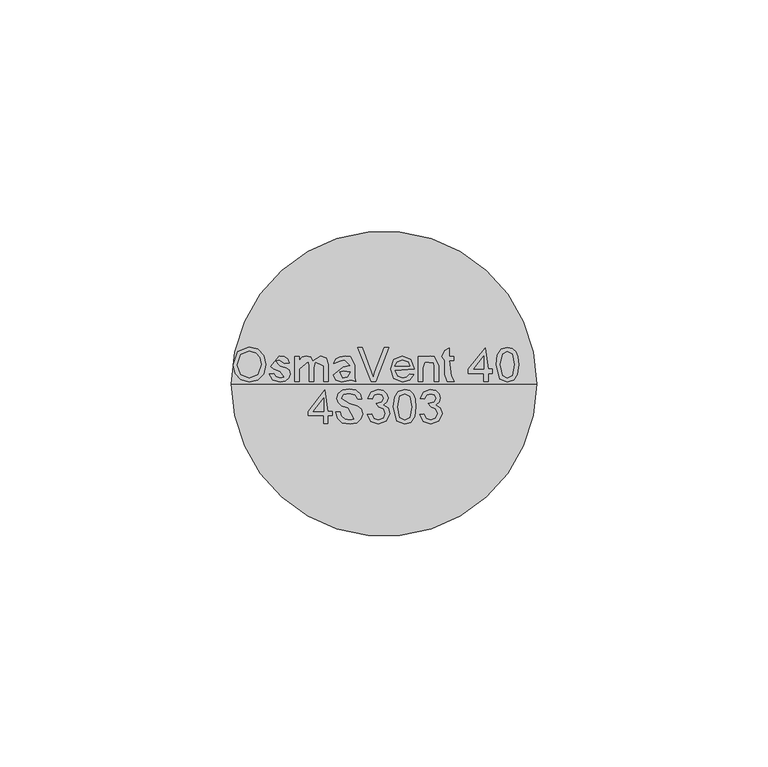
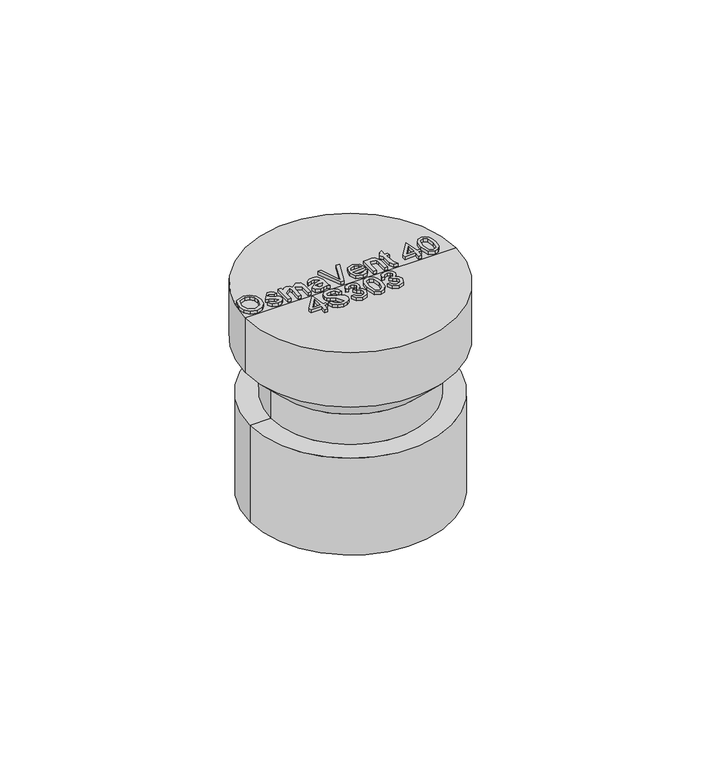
"""IFC4 building model written with IfcOpenShell, lengths in millimetres: pipe fitting geometry, Wavin_PipeAccessory_OsmaAccessoriesAbsAav : Air admitance valve 32/40/50."""

from ifc_helpers import new_model, si_unit, frame, origin, place, context, project, spatial, polyline, circle_curve, outline, extrude, source, transform, mapped, element, save
from ifc_brep_helpers import plane_surface, cylinder_surface, revolved_surface, advanced_brep


def pipe_fitting_8c2a417e(model_context):
    return source(origin(), model_context, "Body", "SolidModel", [
        extrude(outline(polyline([(-32.6270464, 4.0763918), (-31.6426714, 6.9447812), (-29.102407, 7.9814399), (-27.2652676, 7.494661), (-26.0176714, 6.1370889), (-25.5885849, 4.1611274), (-26.0402075, 2.1581226), (-27.3202556, 0.8203822), (-29.1078157, 0.3660553), (-30.9647868, 0.8681586), (-32.2051714, 2.2383509), (-32.6270464, 4.0763918)]), holes=[polyline([(-31.7039695, 4.0673774), (-30.9656883, 2.0319206), (-29.1132243, 1.2891322), (-27.2445344, 2.0391322), (-26.5116618, 4.1683389), (-26.8253637, 5.6917764), (-27.7421306, 6.7004904), (-29.0969984, 7.058363), (-30.9341378, 6.3687596), (-31.7039695, 4.0673774)])]), frame((0.0, 0.0, 36.0), z_axis=(0.0, 0.0, 1.0), x_axis=(1.0, 0.0, 0.0)), (0.0, 0.0, 1.0), 1.0),
        extrude(outline(polyline([(-24.7808926, 2.0968245), (-23.8578157, 2.2122091), (-23.430532, 1.527113), (-22.4515657, 1.2891322), (-21.5104599, 1.5072812), (-22.462383, 2.6971851), (-23.852407, 3.1488077), (-24.4590777, 3.6761514), (-22.6661089, 6.0199014), (-21.5429118, 5.8387115), (-20.8289695, 5.3483269), (-20.5116618, 4.5199014), (-21.4347387, 4.4045168), (-22.5939935, 5.0968245), (-23.477407, 4.9219447), (-22.493032, 3.8456226), (-21.1381642, 3.4111274), (-20.5089575, 2.9189399), (-20.2808926, 2.1166562), (-20.548621, 1.2332428), (-21.321157, 0.5923173), (-22.4641859, 0.3660553), (-24.0741618, 0.8023533), (-24.7808926, 2.0968245)])), frame((0.0, 0.0, 36.0), z_axis=(0.0, 0.0, 1.0), x_axis=(1.0, 0.0, 0.0)), (0.0, 0.0, 1.0), 1.0),
        extrude(outline(polyline([(-19.242431, 0.4814399), (-19.242431, 5.9045168), (-18.3193541, 5.9045168), (-18.3193541, 5.0120889), (-17.6847387, 5.7431586), (-16.7814935, 6.0199014), (-15.8566137, 5.73775), (-15.3482003, 4.9471851), (-13.7183926, 6.0199014), (-12.5113613, 5.5736875), (-12.0885849, 4.198988), (-12.0885849, 0.4814399), (-13.0116618, 0.4814399), (-13.0116618, 3.8023533), (-14.8424911, 4.7272331), (-15.2039695, 3.542738), (-15.2039695, 0.4814399), (-16.1270464, 0.4814399), (-16.1270464, 3.9051178), (-16.3406883, 4.7993485), (-18.3193541, 3.2164158), (-18.3193541, 0.4814399), (-19.242431, 0.4814399)])), frame((0.0, 0.0, 36.0), z_axis=(0.0, 0.0, 1.0), x_axis=(1.0, 0.0, 0.0)), (0.0, 0.0, 1.0), 1.0),
        extrude(outline(polyline([(-7.1270464, 0.8275937), (-8.1375633, 0.5481466), (-9.1264455, 0.3660553), (-10.4668902, 0.8041562), (-10.9347387, 1.9237476), (-8.8488012, 3.6256706), (-7.2478397, 3.9429783), (-8.5170705, 5.0968245), (-9.4509647, 4.9192404), (-10.8193541, 4.4045168), (-10.4200152, 5.3059591), (-9.6159286, 5.8342043), (-8.3980801, 6.0199014), (-7.2793902, 5.8558389), (-6.3193541, 4.0096851), (-6.3193541, 2.8612476), (-6.2724791, 1.2575817), (-6.0885849, 0.4814399), (-7.1270464, 0.8275937)]), holes=[polyline([(-7.3181522, 2.5322211), (-8.7316137, 2.7368485), (-9.5257844, 2.5872091), (-8.929931, 1.2891322), (-7.9960368, 1.5099855), (-7.3181522, 2.5322211)])]), frame((0.0, 0.0, 36.0), z_axis=(0.0, 0.0, 1.0), x_axis=(1.0, 0.0, 0.0)), (0.0, 0.0, 1.0), 1.0),
        extrude(outline(polyline([(-2.7532484, 0.4814399), (-5.6919503, 7.8660553), (-4.7039695, 7.8660553), (-2.7370224, 2.5457428), (-2.3385849, 1.3468245), (-1.945556, 2.5457428), (0.0267997, 7.8660553), (1.0147805, 7.8660553), (-1.7995224, 0.4814399), (-2.7532484, 0.4814399)])), frame((0.0, 0.0, 36.0), z_axis=(0.0, 0.0, 1.0), x_axis=(1.0, 0.0, 0.0)), (0.0, 0.0, 1.0), 1.0),
        extrude(outline(polyline([(5.554444, 2.0968245), (6.459492, 1.9814399), (5.6130377, 0.7897331), (4.0364151, 0.3660553), (2.1199488, 1.097125), (1.4114151, 3.1479062), (2.1271603, 5.2662956), (3.9841315, 6.0199014), (5.7879175, 5.2680985), (6.4883382, 3.1533149), (2.334492, 2.9045168), (2.8654415, 1.7055985), (4.054444, 1.2891322), (4.959492, 1.4820408), (5.554444, 2.0968245)]), holes=[polyline([(2.334492, 3.8275937), (5.5652613, 3.8275937), (5.1956699, 4.6641322), (3.9805257, 5.0968245), (2.8438069, 4.7515721), (2.334492, 3.8275937)])]), frame((0.0, 0.0, 36.0), z_axis=(0.0, 0.0, 1.0), x_axis=(1.0, 0.0, 0.0)), (0.0, 0.0, 1.0), 1.0),
        extrude(outline(polyline([(7.4114151, 0.4814399), (7.4114151, 5.9045168), (8.334492, 5.9045168), (10.0039632, 6.0199014), (10.8756579, 5.8441202), (11.7960305, 3.8113678), (11.7960305, 0.4814399), (10.8729536, 0.4814399), (10.8729536, 3.6869687), (10.7665834, 4.5036755), (8.7554656, 4.7344447), (8.334492, 3.3588437), (8.334492, 0.4814399), (7.4114151, 0.4814399)])), frame((0.0, 0.0, 36.0), z_axis=(0.0, 0.0, 1.0), x_axis=(1.0, 0.0, 0.0)), (0.0, 0.0, 1.0), 1.0),
        extrude(outline(polyline([(14.5652613, 1.6235673), (15.1421843, 0.4543966), (13.678242, 0.5193005), (13.1806459, 1.9688197), (13.1806459, 4.9814399), (12.4883382, 5.9045168), (13.1806459, 7.2224255), (14.1037228, 7.7650937), (14.1037228, 5.9045168), (15.0267997, 5.9045168), (15.0267997, 4.9814399), (14.1037228, 4.9814399), (14.5652613, 1.6235673)])), frame((0.0, 0.0, 36.0), z_axis=(0.0, 0.0, 1.0), x_axis=(1.0, 0.0, 0.0)), (0.0, 0.0, 1.0), 1.0),
        extrude(outline(polyline([(21.6037228, 0.4814399), (21.6037228, 2.2122091), (18.257569, 2.2122091), (18.257569, 3.135286), (21.834492, 7.7506706), (22.5267997, 3.135286), (23.4498766, 3.135286), (23.4498766, 2.2122091), (22.5267997, 2.2122091), (22.5267997, 0.4814399), (21.6037228, 0.4814399)]), holes=[polyline([(21.6037228, 3.135286), (21.6037228, 5.9874495), (19.3933863, 3.135286), (21.6037228, 3.135286)])]), frame((0.0, 0.0, 36.0), z_axis=(0.0, 0.0, 1.0), x_axis=(1.0, 0.0, 0.0)), (0.0, 0.0, 1.0), 1.0),
        extrude(outline(polyline([(24.257569, 4.1142524), (24.5289031, 6.2389519), (25.3347925, 7.464012), (26.6806459, 7.8660553), (27.7587709, 7.6280745), (28.5033622, 6.9420769), (28.9360545, 5.8495288), (29.1037228, 4.1142524), (28.835093, 1.9985673), (28.0319079, 0.7708029), (26.6806459, 0.3660553), (24.9931459, 1.0691803), (24.257569, 4.1142524)]), holes=[polyline([(25.1806459, 4.1160553), (25.6133382, 1.8236875), (26.6806459, 1.2891322), (27.7479536, 1.8254904), (28.1806459, 4.1160553), (27.7623766, 6.3822812), (26.6698286, 6.9429783), (25.6277613, 6.448988), (25.1806459, 4.1160553)])]), frame((0.0, 0.0, 36.0), z_axis=(0.0, 0.0, 1.0), x_axis=(1.0, 0.0, 0.0)), (0.0, 0.0, 1.0), 1.0),
        extrude(outline(polyline([(-13.0693541, -8.6339447), (-13.0693541, -6.9031755), (-16.415508, -6.9031755), (-16.415508, -5.9800986), (-12.8385849, -1.364714), (-12.1462772, -5.9800986), (-11.2232003, -5.9800986), (-11.2232003, -6.9031755), (-12.1462772, -6.9031755), (-12.1462772, -8.6339447), (-13.0693541, -8.6339447)]), holes=[polyline([(-13.0693541, -5.9800986), (-13.0693541, -3.1279351), (-15.2796907, -5.9800986), (-13.0693541, -5.9800986)])]), frame((0.0, 0.0, 36.0), z_axis=(0.0, 0.0, 1.0), x_axis=(1.0, 0.0, 0.0)), (0.0, 0.0, 1.0), 1.0),
        extrude(outline(polyline([(-10.415508, -6.0954832), (-9.492431, -6.0954832), (-9.1949551, -7.0194616), (-8.4683926, -7.6035962), (-7.3614214, -7.8262524), (-6.3968782, -7.6576827), (-7.6940536, -5.2273943), (-9.1408685, -4.7721659), (-9.9260248, -4.0852669), (-10.1847387, -3.1675986), (-9.8647267, -2.122827), (-8.929931, -1.3854471), (-7.5615416, -1.1339447), (-6.1012051, -1.3971659), (-5.1276474, -2.1706034), (-4.7616618, -3.3262524), (-5.6847387, -3.3262524), (-6.2075753, -2.3779351), (-7.5254839, -2.0570217), (-8.8469984, -2.3743294), (-9.2616618, -3.1405553), (-7.4605801, -4.2962044), (-5.8271666, -4.7595457), (-4.9338373, -5.5077428), (-4.6462772, -6.551613), (-4.9771065, -7.6558798), (-5.9290296, -8.4617693), (-7.3253637, -8.7493294), (-8.9741017, -8.4392332), (-10.0170705, -7.505339), (-10.415508, -6.0954832)])), frame((0.0, 0.0, 36.0), z_axis=(0.0, 0.0, 1.0), x_axis=(1.0, 0.0, 0.0)), (0.0, 0.0, 1.0), 1.0),
        extrude(outline(polyline([(-3.6078157, -6.6724063), (-2.6847387, -6.5570217), (-2.1754238, -7.5287765), (-1.2225993, -7.8262524), (-0.1012051, -7.4169976), (0.3152613, -6.4037765), (-0.0975993, -5.4491491), (-1.1468782, -5.0714447), (-1.6913493, -4.2493294), (-0.4960368, -3.9951226), (-0.0308926, -3.1802188), (-0.368032, -2.4581635), (-1.2370224, -2.1724063), (-2.1168301, -2.4608678), (-2.5693541, -3.3262524), (-3.492431, -3.2108678), (-2.7370224, -1.7631515), (-1.2694743, -1.2493294), (-0.1561931, -1.5026346), (0.6226531, -2.1949423), (0.8921843, -3.1261322), (0.6361747, -3.9770938), (-0.1210368, -4.5882717), (0.8849728, -5.2192813), (1.2383382, -6.4200024), (0.5316074, -8.0714447), (-1.2550512, -8.7493294), (-2.8740416, -8.1706034), (-3.6078157, -6.6724063)])), frame((0.0, 0.0, 36.0), z_axis=(0.0, 0.0, 1.0), x_axis=(1.0, 0.0, 0.0)), (0.0, 0.0, 1.0), 1.0),
        extrude(outline(polyline([(2.0460305, -5.0011322), (2.3173646, -2.8764327), (3.123254, -1.6513726), (4.4691074, -1.2493294), (5.5472324, -1.4873101), (6.2918238, -2.1733077), (6.7245161, -3.2658558), (6.8921843, -5.0011322), (6.6235545, -7.1168173), (5.8203694, -8.3445818), (4.4691074, -8.7493294), (2.7816074, -8.0462044), (2.0460305, -5.0011322)]), holes=[polyline([(2.9691074, -4.9993294), (3.4017997, -7.2916971), (4.4691074, -7.8262524), (5.5364151, -7.2898943), (5.9691074, -4.9993294), (5.5508382, -2.7331034), (4.4582901, -2.1724063), (3.4162228, -2.6663967), (2.9691074, -4.9993294)])]), frame((0.0, 0.0, 36.0), z_axis=(0.0, 0.0, 1.0), x_axis=(1.0, 0.0, 0.0)), (0.0, 0.0, 1.0), 1.0),
        extrude(outline(polyline([(7.6998766, -6.6724063), (8.6229536, -6.5570217), (9.1322685, -7.5287765), (10.085093, -7.8262524), (11.2064872, -7.4169976), (11.6229536, -6.4037765), (11.210093, -5.4491491), (10.1608141, -5.0714447), (9.616343, -4.2493294), (10.8116555, -3.9951226), (11.2767997, -3.1802188), (10.9396603, -2.4581635), (10.0706699, -2.1724063), (9.1908622, -2.4608678), (8.7383382, -3.3262524), (7.8152613, -3.2108678), (8.5706699, -1.7631515), (10.038218, -1.2493294), (11.1514992, -1.5026346), (11.9303454, -2.1949423), (12.1998766, -3.1261322), (11.943867, -3.9770938), (11.1866555, -4.5882717), (12.1926651, -5.2192813), (12.5460305, -6.4200024), (11.8392997, -8.0714447), (10.0526411, -8.7493294), (8.4336507, -8.1706034), (7.6998766, -6.6724063)])), frame((0.0, 0.0, 36.0), z_axis=(0.0, 0.0, 1.0), x_axis=(1.0, 0.0, 0.0)), (0.0, 0.0, 1.0), 1.0),
        advanced_brep(
        [(31.5, 0.0, 0.0), (-31.5, 0.0, 0.0), (-25.0, 0.0, 0.0), (25.0, 0.0, 0.0), (31.5, 0.0, -32.0), (-31.5, 0.0, -32.0), (25.0, 0.0, -32.0), (-25.0, 0.0, -32.0)],
        [
            (0, 1, circle_curve(frame((0.0, 0.0, 0.0), z_axis=(0.0, 0.0, 1.0), x_axis=(-1.0, 0.0, 0.0)), 31.5)),
            (1, 2),
            (2, 3, circle_curve(frame((0.0, 0.0, 0.0), z_axis=(0.0, 0.0, -1.0), x_axis=(-1.0, 0.0, 0.0)), 25.0)),
            (3, 0),
            (1, 0, circle_curve(frame((0.0, 0.0, 0.0), z_axis=(0.0, 0.0, 1.0), x_axis=(-1.0, 0.0, 0.0)), 31.5)),
            (3, 2, circle_curve(frame((0.0, 0.0, 0.0), z_axis=(0.0, 0.0, -1.0), x_axis=(-1.0, 0.0, 0.0)), 25.0)),
            (4, 5, circle_curve(frame((0.0, 0.0, -32.0), z_axis=(0.0, 0.0, 1.0), x_axis=(-1.0, 0.0, 0.0)), 31.5)),
            (5, 1),
            (0, 4),
            (5, 4, circle_curve(frame((0.0, 0.0, -32.0), z_axis=(0.0, 0.0, 1.0), x_axis=(-1.0, 0.0, 0.0)), 31.5)),
            (6, 7, circle_curve(frame((0.0, 0.0, -32.0), z_axis=(0.0, 0.0, 1.0), x_axis=(-1.0, 0.0, 0.0)), 25.0)),
            (7, 5),
            (4, 6),
            (7, 6, circle_curve(frame((0.0, 0.0, -32.0), z_axis=(0.0, 0.0, 1.0), x_axis=(-1.0, 0.0, 0.0)), 25.0)),
            (2, 7),
            (6, 3),
        ],
        [
            plane_surface(frame((0.0, 0.0, 0.0), z_axis=(0.0, 0.0, 1.0), x_axis=(-1.0, 0.0, 0.0))),
            cylinder_surface(frame((0.0, 0.0, 2214.3150031), z_axis=(0.0, 0.0, -1.0), x_axis=(-1.0, 0.0, 0.0)), 31.5),
            plane_surface(frame((0.0, 0.0, -32.0), z_axis=(0.0, 0.0, -1.0), x_axis=(-1.0, 0.0, 0.0))),
            revolved_surface(polyline([(-25.0, 0.0, -32.0), (-25.0, 0.0, 0.0)]), (0.0, 0.0, 2214.3150031), (0.0, 0.0, -1.0)),
        ],
        [
            (0, [[1, 2, 3, 4]]),
            (0, [[5, -4, 6, -2]]),
            (1, [[7, 8, -1, 9]]),
            (1, [[10, -9, -5, -8]]),
            (2, [[11, 12, -7, 13]]),
            (2, [[14, -13, -10, -12]]),
            (3, [[-3, 15, -11, 16]]),
            (3, [[-6, -16, -14, -15]]),
        ],
    ),
        advanced_brep(
        [(0.0, 0.0, -32.0), (-25.0, 0.0, -32.0), (25.0, 0.0, -32.0), (33.0, 0.0, 36.0), (-33.0, 0.0, 36.0), (0.0, 0.0, 36.0), (33.0, 0.0, 18.0), (-33.0, 0.0, 18.0), (25.0, 0.0, 10.0), (-25.0, 0.0, 10.0), (25.0, 0.0, 0.0), (-25.0, 0.0, 0.0)],
        [
            (0, 1),
            (1, 2, circle_curve(frame((0.0, 0.0, -32.0), z_axis=(0.0, 0.0, -1.0), x_axis=(-1.0, 0.0, 0.0)), 25.0)),
            (2, 0),
            (2, 1, circle_curve(frame((0.0, 0.0, -32.0), z_axis=(0.0, 0.0, -1.0), x_axis=(-1.0, 0.0, 0.0)), 25.0)),
            (3, 4, circle_curve(frame((0.0, 0.0, 36.0), z_axis=(0.0, 0.0, 1.0), x_axis=(-1.0, 0.0, 0.0)), 33.0)),
            (4, 5),
            (5, 3),
            (4, 3, circle_curve(frame((0.0, 0.0, 36.0), z_axis=(0.0, 0.0, 1.0), x_axis=(-1.0, 0.0, 0.0)), 33.0)),
            (6, 7, circle_curve(frame((0.0, 0.0, 18.0), z_axis=(0.0, 0.0, 1.0), x_axis=(-1.0, 0.0, 0.0)), 33.0)),
            (7, 4),
            (3, 6),
            (7, 6, circle_curve(frame((0.0, 0.0, 18.0), z_axis=(0.0, 0.0, 1.0), x_axis=(-1.0, 0.0, 0.0)), 33.0)),
            (8, 9, circle_curve(frame((0.0, 0.0, 10.0), z_axis=(0.0, 0.0, 1.0), x_axis=(-1.0, 0.0, 0.0)), 25.0)),
            (9, 7),
            (6, 8),
            (9, 8, circle_curve(frame((0.0, 0.0, 10.0), z_axis=(0.0, 0.0, 1.0), x_axis=(-1.0, 0.0, 0.0)), 25.0)),
            (10, 11, circle_curve(frame((0.0, 0.0, 0.0), z_axis=(0.0, 0.0, 1.0), x_axis=(-1.0, 0.0, 0.0)), 25.0)),
            (11, 9),
            (8, 10),
            (11, 10, circle_curve(frame((0.0, 0.0, 0.0), z_axis=(0.0, 0.0, 1.0), x_axis=(-1.0, 0.0, 0.0)), 25.0)),
            (1, 11),
            (10, 2),
        ],
        [
            plane_surface(frame((0.0, 0.0, -32.0), z_axis=(0.0, 0.0, -1.0), x_axis=(-1.0, 0.0, 0.0))),
            plane_surface(frame((0.0, 0.0, 36.0), z_axis=(0.0, 0.0, 1.0), x_axis=(-1.0, 0.0, 0.0))),
            cylinder_surface(frame((0.0, 0.0, 2166.3150031), z_axis=(0.0, 0.0, -1.0), x_axis=(-1.0, 0.0, 0.0)), 33.0),
            revolved_surface(polyline([(-33.0, 0.0, 18.0), (-25.0, 0.0, 10.0)]), (0.0, 0.0, 2166.3150031), (0.0, 0.0, -1.0)),
            cylinder_surface(frame((0.0, 0.0, 2166.3150031), z_axis=(0.0, 0.0, -1.0), x_axis=(-1.0, 0.0, 0.0)), 25.0),
        ],
        [
            (0, [[1, 2, 3]]),
            (0, [[-3, 4, -1]]),
            (1, [[5, 6, 7]]),
            (1, [[8, -7, -6]]),
            (2, [[9, 10, -5, 11]]),
            (2, [[12, -11, -8, -10]]),
            (3, [[13, 14, -9, 15]]),
            (3, [[16, -15, -12, -14]]),
            (4, [[17, 18, -13, 19]]),
            (4, [[20, -19, -16, -18]]),
            (4, [[-2, 21, -17, 22]]),
            (4, [[-4, -22, -20, -21]]),
        ],
    ),
    ])


if __name__ == "__main__":
    model = new_model("IFC4")
    model_context = context("Model", 3, world=origin())
    ifc_project = project(units=[si_unit("LENGTHUNIT", "METRE", prefix="MILLI")], contexts=[model_context])
    site = spatial("IfcSite", under=ifc_project)
    building = spatial("IfcBuilding", under=site)
    placement = place(None, origin())
    pipe_fitting_shape = pipe_fitting_8c2a417e(model_context)
    element("IfcPipeFitting", 1, ObjectType="Wavin_PipeAccessory_OsmaAccessoriesAbsAav : Air admitance valve 32/40/50", at=placement, inside=building, context=model_context, shape_type="MappedRepresentation", body=[
        mapped(pipe_fitting_shape, transform((0.0, 0.0, 0.0), x_axis=(1.0, 0.0, 0.0), y_axis=(0.0, 1.0, 0.0), z_axis=(0.0, 0.0, 1.0))),
    ])
    save(model, "model.ifc")
